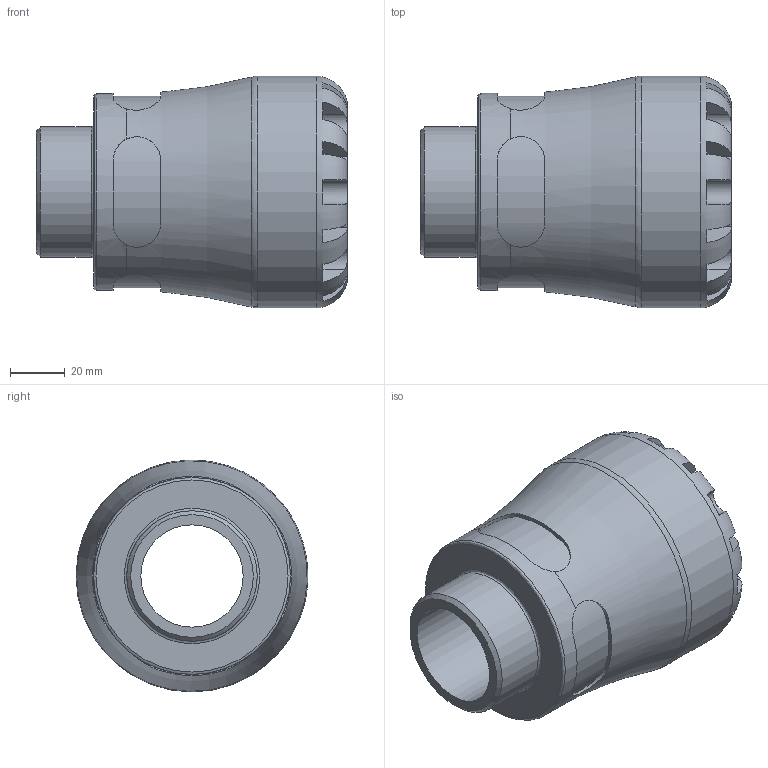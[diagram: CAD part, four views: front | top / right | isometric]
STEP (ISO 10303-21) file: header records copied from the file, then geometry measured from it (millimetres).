
FILE_DESCRIPTION(/* description */ ('PLASSON MALE ADAPTOR 50X1.1/2" SERIES 1'),/* implementation_level */ '2;1');
FILE_NAME(/* name */ 'C:\Dropbox\KIMPROJECTS-Inventor\99-16-3568-Processing\S1\1002\100200050015_190200050015.ipt.stp',/* time_stamp */ '2017-07-27T14:39:34+03:00',/* author */ ('KIM'),/* organization */ (''),/* preprocessor_version */ 'ST-DEVELOPER v15.6',/* originating_system */ 'Autodesk Inventor 2015',/* authorisation */ '');
FILE_SCHEMA (('AUTOMOTIVE_DESIGN { 1 0 10303 214 3 1 1 }'));
Length unit declared in the file: millimetre
Products named in the file (1): 100200050015_190200050015
Bounding box: 114 x 85 x 85 mm (x, y, z)
Volume: 284082.2 mm3; surface area: 51767.3 mm2
Topology: 1 solids, 1 shells, 100 faces, 257 edges, 161 vertices
Faces by surface type: plane 60, cylinder 33, torus 5, cone 2
Full cylindrical faces by diameter (mm): 37.5 x1, 47.803 x1, 50 x1, 72.25 x1, 85 x1
Entity records: 3768 total; most frequent: CARTESIAN_POINT 1449, ORIENTED_EDGE 484, DIRECTION 462, EDGE_CURVE 242, AXIS2_PLACEMENT_3D 191, VERTEX_POINT 158, EDGE_LOOP 116, FACE_OUTER_BOUND 100
